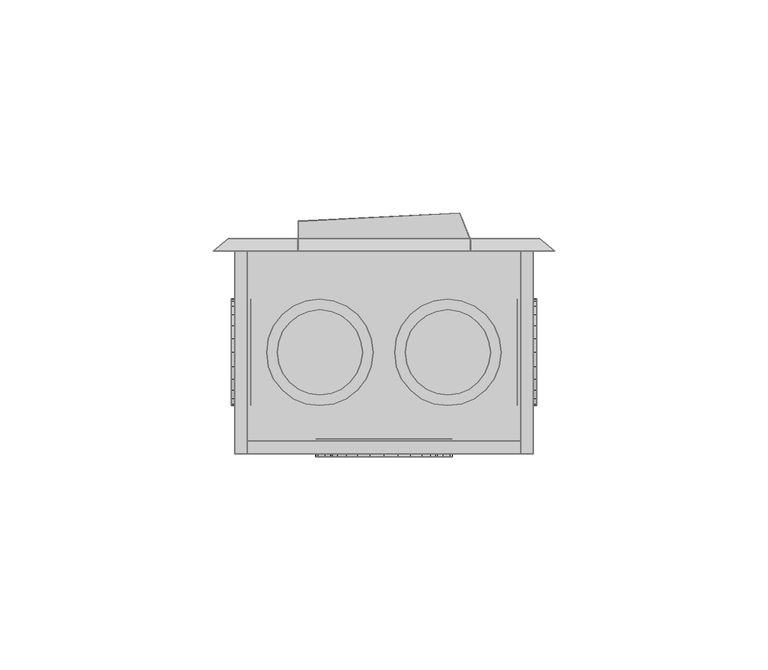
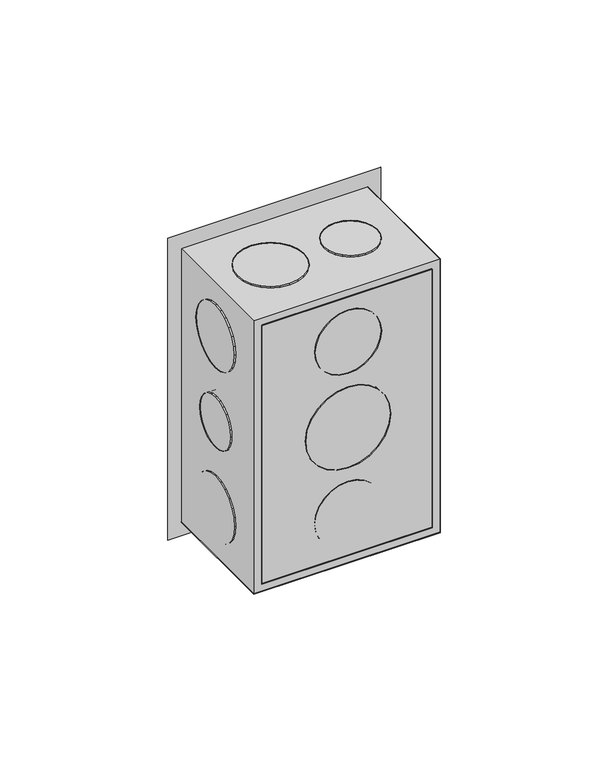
"""IFC4 building model written with IfcOpenShell, lengths in millimetres: proxy geometry,  210817 :  210817."""

from ifc_helpers import new_model, si_unit, origin, place, context, project, spatial, triangles, source, transform, mapped, element, save


def generic_models_2852369b(model_context):
    return source(origin(), model_context, "Body", "Tessellation", [
        triangles([(9409.6698303, 31445.4992065, 1254.3000378), (9412.6702286, 31445.4992065, 1148.7000154), (9409.6698303, 31445.4992065, 1145.6999805), (9412.6702286, 31445.4992065, 1251.2999302), (9479.6702087, 31445.4992065, 1254.3000378), (9476.6698105, 31445.4992065, 1251.2999302), (9479.6702087, 31445.4992065, 1145.6999805), (9476.6698105, 31445.4992065, 1148.7000154), (9412.6702286, 31397.9997803, 1251.2999302), (9412.6702286, 31397.9997803, 1148.7000154), (9479.6702087, 31397.9997803, 1254.3000378), (9479.6702087, 31397.9997803, 1145.6999805), (9476.6698105, 31397.9997803, 1251.2999302), (9409.6698303, 31397.9997803, 1145.6999805), (9476.6698105, 31397.9997803, 1148.7000154), (9409.6698303, 31397.9997803, 1254.3000378), (9412.6702286, 31400.9995972, 1251.2999302), (9476.6698105, 31400.9995972, 1148.7000154), (9412.6702286, 31400.9995972, 1148.7000154), (9476.6698105, 31400.9995972, 1251.2999302), (9430.7702866, 31401.4995667, 1191.9999887), (9436.6699265, 31401.4995667, 1186.0999855), (9433.3701279, 31401.4995667, 1188.6999722), (9429.1698029, 31401.4995667, 1195.8999687), (9440.4702759, 31401.4995667, 1184.5000105), (9428.6698334, 31401.4995667, 1200.0000092), (9444.6700195, 31401.4995667, 1183.9999683), (9429.1698029, 31401.4995667, 1204.0999769), (9448.7697693, 31401.4995667, 1184.5000105), (9430.7702866, 31401.4995667, 1208.0000296), (9452.6701126, 31401.4995667, 1186.0999855), (9433.3701279, 31401.4995667, 1211.2999735), (9455.9699112, 31401.4995667, 1188.6999722), (9436.6699265, 31401.4995667, 1213.9000328), (9458.4697586, 31401.4995667, 1191.9999887), (9440.4702759, 31401.4995667, 1215.5000078), (9460.0702423, 31401.4995667, 1195.8999687), (9444.6700195, 31401.4995667, 1215.9999773), (9460.6702057, 31401.4995667, 1200.0000092), (9448.7697693, 31401.4995667, 1215.5000078), (9460.0702423, 31401.4995667, 1204.0999769), (9452.6701126, 31401.4995667, 1213.9000328), (9458.4697586, 31401.4995667, 1208.0000296), (9455.9699112, 31401.4995667, 1211.2999735), (9448.7697693, 31397.299823, 1184.5000105), (9444.6700195, 31397.299823, 1183.9999683), (9440.4702759, 31397.299823, 1184.5000105), (9436.6699265, 31397.299823, 1186.0999855), (9433.3701279, 31397.299823, 1188.6999722), (9430.7702866, 31397.299823, 1191.9999887), (9429.1698029, 31397.299823, 1195.8999687), (9428.6698334, 31397.299823, 1200.0000092), (9429.1698029, 31397.299823, 1204.0999769), (9430.7702866, 31397.299823, 1208.0000296), (9433.3701279, 31397.299823, 1211.2999735), (9436.6699265, 31397.299823, 1213.9000328), (9440.4702759, 31397.299823, 1215.5000078), (9444.6700195, 31397.299823, 1215.9999773), (9448.7697693, 31397.299823, 1215.5000078), (9452.6701126, 31397.299823, 1213.9000328), (9455.9699112, 31397.299823, 1211.2999735), (9458.4697586, 31397.299823, 1208.0000296), (9460.0702423, 31397.299823, 1204.0999769), (9460.6702057, 31397.299823, 1200.0000092), (9460.0702423, 31397.299823, 1195.8999687), (9458.4697586, 31397.299823, 1191.9999887), (9455.9699112, 31397.299823, 1188.6999722), (9452.6701126, 31397.299823, 1186.0999855), (9433.7701035, 31401.4995667, 1227.8000565), (9438.3698227, 31401.4995667, 1223.2000465), (9435.7699814, 31401.4995667, 1225.2000698), (9432.5701767, 31401.4995667, 1230.8000187), (9441.3702209, 31401.4995667, 1221.8999805), (9432.1702011, 31401.4995667, 1233.9999687), (9444.6700195, 31401.4995667, 1221.500005), (9432.5701767, 31401.4995667, 1237.2000641), (9447.8698242, 31401.4995667, 1221.8999805), (9433.7701035, 31401.4995667, 1240.3000202), (9450.8702225, 31401.4995667, 1223.2000465), (9435.7699814, 31401.4995667, 1242.800013), (9453.4700638, 31401.4995667, 1225.2000698), (9455.4699417, 31401.4995667, 1227.8000565), (9438.3698227, 31401.4995667, 1244.8000362), (9441.3702209, 31401.4995667, 1246.0999569), (9456.6698685, 31401.4995667, 1230.8000187), (9444.6700195, 31401.4995667, 1246.4999325), (9457.169838, 31401.4995667, 1233.9999687), (9447.8698242, 31401.4995667, 1246.0999569), (9456.6698685, 31401.4995667, 1237.2000641), (9455.4699417, 31401.4995667, 1240.3000202), (9450.8702225, 31401.4995667, 1244.8000362), (9453.4700638, 31401.4995667, 1242.800013), (9456.6698685, 31397.299823, 1230.8000187), (9455.4699417, 31397.299823, 1227.8000565), (9453.4700638, 31397.299823, 1225.2000698), (9450.8702225, 31397.299823, 1223.2000465), (9447.8698242, 31397.299823, 1221.8999805), (9444.6700195, 31397.299823, 1221.500005), (9441.3702209, 31397.299823, 1221.8999805), (9438.3698227, 31397.299823, 1223.2000465), (9435.7699814, 31397.299823, 1225.2000698), (9433.7701035, 31397.299823, 1227.8000565), (9432.5701767, 31397.299823, 1230.8000187), (9432.1702011, 31397.299823, 1233.9999687), (9432.5701767, 31397.299823, 1237.2000641), (9433.7701035, 31397.299823, 1240.3000202), (9435.7699814, 31397.299823, 1242.800013), (9438.3698227, 31397.299823, 1244.8000362), (9441.3702209, 31397.299823, 1246.0999569), (9444.6700195, 31397.299823, 1246.4999325), (9447.8698242, 31397.299823, 1246.0999569), (9450.8702225, 31397.299823, 1244.8000362), (9453.4700638, 31397.299823, 1242.800013), (9455.4699417, 31397.299823, 1240.3000202), (9456.6698685, 31397.299823, 1237.2000641), (9457.169838, 31397.299823, 1233.9999687), (9438.3698227, 31397.299823, 1155.1999821), (9433.7701035, 31397.299823, 1159.6999981), (9435.7699814, 31397.299823, 1157.2000053), (9441.3702209, 31397.299823, 1153.8999887), (9432.5701767, 31397.299823, 1162.8000269), (9444.6700195, 31397.299823, 1153.5000132), (9432.1702011, 31397.299823, 1165.9999769), (9447.8698242, 31397.299823, 1153.8999887), (9432.5701767, 31397.299823, 1169.1999996), (9450.8702225, 31397.299823, 1155.1999821), (9433.7701035, 31397.299823, 1172.2000345), (9453.4700638, 31397.299823, 1157.2000053), (9435.7699814, 31397.299823, 1174.8000212), (9455.4699417, 31397.299823, 1159.6999981), (9438.3698227, 31397.299823, 1176.7999718), (9456.6698685, 31397.299823, 1162.8000269), (9441.3702209, 31397.299823, 1178.0999651), (9444.6700195, 31397.299823, 1178.5000134), (9457.169838, 31397.299823, 1165.9999769), (9456.6698685, 31397.299823, 1169.1999996), (9447.8698242, 31397.299823, 1178.0999651), (9455.4699417, 31397.299823, 1172.2000345), (9450.8702225, 31397.299823, 1176.7999718), (9453.4700638, 31397.299823, 1174.8000212), (9441.3702209, 31401.4995667, 1178.0999651), (9444.6700195, 31401.4995667, 1178.5000134), (9438.3698227, 31401.4995667, 1176.7999718), (9435.7699814, 31401.4995667, 1174.8000212), (9433.7701035, 31401.4995667, 1172.2000345), (9432.5701767, 31401.4995667, 1169.1999996), (9432.1702011, 31401.4995667, 1165.9999769), (9432.5701767, 31401.4995667, 1162.8000269), (9433.7701035, 31401.4995667, 1159.6999981), (9435.7699814, 31401.4995667, 1157.2000053), (9438.3698227, 31401.4995667, 1155.1999821), (9441.3702209, 31401.4995667, 1153.8999887), (9444.6700195, 31401.4995667, 1153.5000132), (9447.8698242, 31401.4995667, 1153.8999887), (9450.8702225, 31401.4995667, 1155.1999821), (9453.4700638, 31401.4995667, 1157.2000053), (9455.4699417, 31401.4995667, 1159.6999981), (9456.6698685, 31401.4995667, 1162.8000269), (9457.169838, 31401.4995667, 1165.9999769), (9456.6698685, 31401.4995667, 1169.1999996), (9455.4699417, 31401.4995667, 1172.2000345), (9453.4700638, 31401.4995667, 1174.8000212), (9450.8702225, 31401.4995667, 1176.7999718), (9447.8698242, 31401.4995667, 1178.0999651), (9413.4701797, 31416.8009583, 1191.3000315), (9413.4701797, 31413.0988586, 1195.0000237), (9413.4701797, 31414.7010864, 1192.9000065), (9413.4701797, 31412.0989197, 1197.4000225), (9413.4701797, 31419.2008118, 1190.3000198), (9413.4701797, 31411.798938, 1200.0000092), (9413.4701797, 31421.8006531, 1189.9999655), (9413.4701797, 31424.3005005, 1190.3000198), (9413.4701797, 31412.0989197, 1202.5999958), (9413.4701797, 31413.0988586, 1204.9999947), (9413.4701797, 31426.8003479, 1191.3000315), (9413.4701797, 31414.7010864, 1207.1000118), (9413.4701797, 31428.8002258, 1192.9000065), (9413.4701797, 31430.4001282, 1195.0000237), (9413.4701797, 31416.8009583, 1208.6999868), (9413.4701797, 31431.4000671, 1197.4000225), (9413.4701797, 31419.2008118, 1209.6999985), (9413.4701797, 31431.8000427, 1200.0000092), (9413.4701797, 31421.8006531, 1209.9999802), (9413.4701797, 31431.4000671, 1202.5999958), (9413.4701797, 31424.3005005, 1209.6999985), (9413.4701797, 31426.8003479, 1208.6999868), (9413.4701797, 31430.4001282, 1204.9999947), (9413.4701797, 31428.8002258, 1207.1000118), (9408.8698792, 31421.8006531, 1189.9999655), (9408.8698792, 31419.2008118, 1190.3000198), (9408.8698792, 31424.3005005, 1190.3000198), (9408.8698792, 31426.8003479, 1191.3000315), (9408.8698792, 31428.8002258, 1192.9000065), (9408.8698792, 31430.4001282, 1195.0000237), (9408.8698792, 31431.4000671, 1197.4000225), (9408.8698792, 31431.8000427, 1200.0000092), (9408.8698792, 31431.4000671, 1202.5999958), (9408.8698792, 31430.4001282, 1204.9999947), (9408.8698792, 31428.8002258, 1207.1000118), (9408.8698792, 31426.8003479, 1208.6999868), (9408.8698792, 31424.3005005, 1209.6999985), (9408.8698792, 31421.8006531, 1209.9999802), (9408.8698792, 31419.2008118, 1209.6999985), (9408.8698792, 31416.8009583, 1208.6999868), (9408.8698792, 31414.7010864, 1207.1000118), (9408.8698792, 31413.0988586, 1204.9999947), (9408.8698792, 31412.0989197, 1202.5999958), (9408.8698792, 31411.798938, 1200.0000092), (9408.8698792, 31412.0989197, 1197.4000225), (9408.8698792, 31413.0988586, 1195.0000237), (9408.8698792, 31414.7010864, 1192.9000065), (9408.8698792, 31416.8009583, 1191.3000315), (9413.4701797, 31415.5010376, 1223.2000465), (9413.4701797, 31410.8989929, 1227.8000565), (9413.4701797, 31412.8988708, 1225.2000698), (9413.4701797, 31418.5008545, 1221.8999805), (9413.4701797, 31409.6990662, 1230.8000187), (9413.4701797, 31409.2990906, 1233.9999687), (9413.4701797, 31421.8006531, 1221.500005), (9413.4701797, 31425.0004578, 1221.8999805), (9413.4701797, 31409.6990662, 1237.2000641), (9413.4701797, 31410.8989929, 1240.3000202), (9413.4701797, 31428.0002747, 1223.2000465), (9413.4701797, 31430.600116, 1225.2000698), (9413.4701797, 31412.8988708, 1242.800013), (9413.4701797, 31432.5999939, 1227.8000565), (9413.4701797, 31415.5010376, 1244.8000362), (9413.4701797, 31433.7999207, 1230.8000187), (9413.4701797, 31418.5008545, 1246.0999569), (9413.4701797, 31434.2998901, 1233.9999687), (9413.4701797, 31421.8006531, 1246.4999325), (9413.4701797, 31433.7999207, 1237.2000641), (9413.4701797, 31425.0004578, 1246.0999569), (9413.4701797, 31432.5999939, 1240.3000202), (9413.4701797, 31428.0002747, 1244.8000362), (9413.4701797, 31430.600116, 1242.800013), (9408.8698792, 31421.8006531, 1221.500005), (9408.8698792, 31418.5008545, 1221.8999805), (9408.8698792, 31425.0004578, 1221.8999805), (9408.8698792, 31428.0002747, 1223.2000465), (9408.8698792, 31430.600116, 1225.2000698), (9408.8698792, 31432.5999939, 1227.8000565), (9408.8698792, 31433.7999207, 1230.8000187), (9408.8698792, 31434.2998901, 1233.9999687), (9408.8698792, 31433.7999207, 1237.2000641), (9408.8698792, 31432.5999939, 1240.3000202), (9408.8698792, 31430.600116, 1242.800013), (9408.8698792, 31428.0002747, 1244.8000362), (9408.8698792, 31425.0004578, 1246.0999569), (9408.8698792, 31421.8006531, 1246.4999325), (9408.8698792, 31418.5008545, 1246.0999569), (9408.8698792, 31415.5010376, 1244.8000362), (9408.8698792, 31412.8988708, 1242.800013), (9408.8698792, 31410.8989929, 1240.3000202), (9408.8698792, 31409.6990662, 1237.2000641), (9408.8698792, 31409.2990906, 1233.9999687), (9408.8698792, 31409.6990662, 1230.8000187), (9408.8698792, 31410.8989929, 1227.8000565), (9408.8698792, 31412.8988708, 1225.2000698), (9408.8698792, 31415.5010376, 1223.2000465), (9408.8698792, 31410.8989929, 1159.6999981), (9408.8698792, 31415.5010376, 1155.1999821), (9408.8698792, 31412.8988708, 1157.2000053), (9408.8698792, 31409.6990662, 1162.8000269), (9408.8698792, 31418.5008545, 1153.8999887), (9408.8698792, 31409.2990906, 1165.9999769), (9408.8698792, 31421.8006531, 1153.5000132), (9408.8698792, 31409.6990662, 1169.1999996), (9408.8698792, 31425.0004578, 1153.8999887), (9408.8698792, 31410.8989929, 1172.2000345), (9408.8698792, 31428.0002747, 1155.1999821), (9408.8698792, 31412.8988708, 1174.8000212), (9408.8698792, 31430.600116, 1157.2000053), (9408.8698792, 31415.5010376, 1176.7999718), (9408.8698792, 31432.5999939, 1159.6999981), (9408.8698792, 31418.5008545, 1178.0999651), (9408.8698792, 31433.7999207, 1162.8000269), (9408.8698792, 31421.8006531, 1178.5000134), (9408.8698792, 31434.2998901, 1165.9999769), (9408.8698792, 31425.0004578, 1178.0999651), (9408.8698792, 31433.7999207, 1169.1999996), (9408.8698792, 31428.0002747, 1176.7999718), (9408.8698792, 31432.5999939, 1172.2000345), (9408.8698792, 31430.600116, 1174.8000212), (9413.4701797, 31418.5008545, 1178.0999651), (9413.4701797, 31421.8006531, 1178.5000134), (9413.4701797, 31425.0004578, 1178.0999651), (9413.4701797, 31428.0002747, 1176.7999718), (9413.4701797, 31430.600116, 1174.8000212), (9413.4701797, 31432.5999939, 1172.2000345), (9413.4701797, 31433.7999207, 1169.1999996), (9413.4701797, 31434.2998901, 1165.9999769), (9413.4701797, 31433.7999207, 1162.8000269), (9413.4701797, 31432.5999939, 1159.6999981), (9413.4701797, 31430.600116, 1157.2000053), (9413.4701797, 31428.0002747, 1155.1999821), (9413.4701797, 31425.0004578, 1153.8999887), (9413.4701797, 31421.8006531, 1153.5000132), (9413.4701797, 31418.5008545, 1153.8999887), (9413.4701797, 31415.5010376, 1155.1999821), (9413.4701797, 31412.8988708, 1157.2000053), (9413.4701797, 31410.8989929, 1159.6999981), (9413.4701797, 31409.6990662, 1162.8000269), (9413.4701797, 31409.2990906, 1165.9999769), (9413.4701797, 31409.6990662, 1169.1999996), (9413.4701797, 31410.8989929, 1172.2000345), (9413.4701797, 31412.8988708, 1174.8000212), (9413.4701797, 31415.5010376, 1176.7999718), (9475.8698593, 31413.0988586, 1195.0000237), (9475.8698593, 31416.8009583, 1191.3000315), (9475.8698593, 31414.7010864, 1192.9000065), (9475.8698593, 31412.0989197, 1197.4000225), (9475.8698593, 31419.2008118, 1190.3000198), (9475.8698593, 31411.798938, 1200.0000092), (9475.8698593, 31421.8006531, 1189.9999655), (9475.8698593, 31412.0989197, 1202.5999958), (9475.8698593, 31424.3005005, 1190.3000198), (9475.8698593, 31413.0988586, 1204.9999947), (9475.8698593, 31426.8003479, 1191.3000315), (9475.8698593, 31414.7010864, 1207.1000118), (9475.8698593, 31428.8002258, 1192.9000065), (9475.8698593, 31416.8009583, 1208.6999868), (9475.8698593, 31430.4001282, 1195.0000237), (9475.8698593, 31419.2008118, 1209.6999985), (9475.8698593, 31431.4000671, 1197.4000225), (9475.8698593, 31431.8000427, 1200.0000092), (9475.8698593, 31421.8006531, 1209.9999802), (9475.8698593, 31424.3005005, 1209.6999985), (9475.8698593, 31431.4000671, 1202.5999958), (9475.8698593, 31426.8003479, 1208.6999868), (9475.8698593, 31430.4001282, 1204.9999947), (9475.8698593, 31428.8002258, 1207.1000118), (9480.4701599, 31419.2008118, 1209.6999985), (9480.4701599, 31421.8006531, 1209.9999802), (9480.4701599, 31424.3005005, 1209.6999985), (9480.4701599, 31426.8003479, 1208.6999868), (9480.4701599, 31428.8002258, 1207.1000118), (9480.4701599, 31430.4001282, 1204.9999947), (9480.4701599, 31431.4000671, 1202.5999958), (9480.4701599, 31431.8000427, 1200.0000092), (9480.4701599, 31431.4000671, 1197.4000225), (9480.4701599, 31430.4001282, 1195.0000237), (9480.4701599, 31428.8002258, 1192.9000065), (9480.4701599, 31426.8003479, 1191.3000315), (9480.4701599, 31424.3005005, 1190.3000198), (9480.4701599, 31421.8006531, 1189.9999655), (9480.4701599, 31419.2008118, 1190.3000198), (9480.4701599, 31416.8009583, 1191.3000315), (9480.4701599, 31414.7010864, 1192.9000065), (9480.4701599, 31413.0988586, 1195.0000237), (9480.4701599, 31412.0989197, 1197.4000225), (9480.4701599, 31411.798938, 1200.0000092), (9480.4701599, 31412.0989197, 1202.5999958), (9480.4701599, 31413.0988586, 1204.9999947), (9480.4701599, 31414.7010864, 1207.1000118), (9480.4701599, 31416.8009583, 1208.6999868), (9475.8698593, 31410.8989929, 1159.6999981), (9475.8698593, 31415.5010376, 1155.1999821), (9475.8698593, 31412.8988708, 1157.2000053), (9475.8698593, 31409.6990662, 1162.8000269), (9475.8698593, 31418.5008545, 1153.8999887), (9475.8698593, 31409.2990906, 1165.9999769), (9475.8698593, 31421.8006531, 1153.5000132), (9475.8698593, 31409.6990662, 1169.1999996), (9475.8698593, 31425.0004578, 1153.8999887), (9475.8698593, 31410.8989929, 1172.2000345), (9475.8698593, 31428.0002747, 1155.1999821), (9475.8698593, 31412.8988708, 1174.8000212), (9475.8698593, 31430.600116, 1157.2000053), (9475.8698593, 31415.5010376, 1176.7999718), (9475.8698593, 31432.5999939, 1159.6999981), (9475.8698593, 31418.5008545, 1178.0999651), (9475.8698593, 31433.7999207, 1162.8000269), (9475.8698593, 31421.8006531, 1178.5000134), (9475.8698593, 31434.2998901, 1165.9999769), (9475.8698593, 31425.0004578, 1178.0999651), (9475.8698593, 31433.7999207, 1169.1999996), (9475.8698593, 31428.0002747, 1176.7999718), (9475.8698593, 31432.5999939, 1172.2000345), (9475.8698593, 31430.600116, 1174.8000212), (9480.4701599, 31418.5008545, 1178.0999651), (9480.4701599, 31421.8006531, 1178.5000134), (9480.4701599, 31425.0004578, 1178.0999651), (9480.4701599, 31428.0002747, 1176.7999718), (9480.4701599, 31430.600116, 1174.8000212), (9480.4701599, 31432.5999939, 1172.2000345), (9480.4701599, 31433.7999207, 1169.1999996), (9480.4701599, 31434.2998901, 1165.9999769), (9480.4701599, 31433.7999207, 1162.8000269), (9480.4701599, 31432.5999939, 1159.6999981), (9480.4701599, 31430.600116, 1157.2000053), (9480.4701599, 31428.0002747, 1155.1999821), (9480.4701599, 31425.0004578, 1153.8999887), (9480.4701599, 31421.8006531, 1153.5000132), (9480.4701599, 31418.5008545, 1153.8999887), (9480.4701599, 31415.5010376, 1155.1999821), (9480.4701599, 31412.8988708, 1157.2000053), (9480.4701599, 31410.8989929, 1159.6999981), (9480.4701599, 31409.6990662, 1162.8000269), (9480.4701599, 31409.2990906, 1165.9999769), (9480.4701599, 31409.6990662, 1169.1999996), (9480.4701599, 31410.8989929, 1172.2000345), (9480.4701599, 31412.8988708, 1174.8000212), (9480.4701599, 31415.5010376, 1176.7999718), (9480.4701599, 31415.5010376, 1223.2000465), (9480.4701599, 31410.8989929, 1227.8000565), (9480.4701599, 31412.8988708, 1225.2000698), (9480.4701599, 31418.5008545, 1221.8999805), (9480.4701599, 31409.6990662, 1230.8000187), (9480.4701599, 31409.2990906, 1233.9999687), (9480.4701599, 31421.8006531, 1221.500005), (9480.4701599, 31425.0004578, 1221.8999805), (9480.4701599, 31409.6990662, 1237.2000641), (9480.4701599, 31410.8989929, 1240.3000202), (9480.4701599, 31428.0002747, 1223.2000465), (9480.4701599, 31430.600116, 1225.2000698), (9480.4701599, 31412.8988708, 1242.800013), (9480.4701599, 31432.5999939, 1227.8000565), (9480.4701599, 31415.5010376, 1244.8000362), (9480.4701599, 31433.7999207, 1230.8000187), (9480.4701599, 31418.5008545, 1246.0999569), (9480.4701599, 31434.2998901, 1233.9999687), (9480.4701599, 31421.8006531, 1246.4999325), (9480.4701599, 31433.7999207, 1237.2000641), (9480.4701599, 31425.0004578, 1246.0999569), (9480.4701599, 31432.5999939, 1240.3000202), (9480.4701599, 31428.0002747, 1244.8000362), (9480.4701599, 31430.600116, 1242.800013), (9475.8698593, 31421.8006531, 1221.500005), (9475.8698593, 31418.5008545, 1221.8999805), (9475.8698593, 31425.0004578, 1221.8999805), (9475.8698593, 31428.0002747, 1223.2000465), (9475.8698593, 31430.600116, 1225.2000698), (9475.8698593, 31432.5999939, 1227.8000565), (9475.8698593, 31433.7999207, 1230.8000187), (9475.8698593, 31434.2998901, 1233.9999687), (9475.8698593, 31433.7999207, 1237.2000641), (9475.8698593, 31432.5999939, 1240.3000202), (9475.8698593, 31430.600116, 1242.800013), (9475.8698593, 31428.0002747, 1244.8000362), (9475.8698593, 31425.0004578, 1246.0999569), (9475.8698593, 31421.8006531, 1246.4999325), (9475.8698593, 31418.5008545, 1246.0999569), (9475.8698593, 31415.5010376, 1244.8000362), (9475.8698593, 31412.8988708, 1242.800013), (9475.8698593, 31410.8989929, 1240.3000202), (9475.8698593, 31409.6990662, 1237.2000641), (9475.8698593, 31409.2990906, 1233.9999687), (9475.8698593, 31409.6990662, 1230.8000187), (9475.8698593, 31410.8989929, 1227.8000565), (9475.8698593, 31412.8988708, 1225.2000698), (9475.8698593, 31415.5010376, 1223.2000465), (9418.7698563, 31415.5010376, 1250.9999485), (9423.3701569, 31410.8989929, 1250.9999485), (9420.7697342, 31412.8988708, 1250.9999485), (9417.5699295, 31418.5008545, 1250.9999485), (9426.3699738, 31409.6990662, 1250.9999485), (9429.6697723, 31409.2990906, 1250.9999485), (9417.1699539, 31421.8006531, 1250.9999485), (9417.5699295, 31425.0004578, 1250.9999485), (9432.8701584, 31409.6990662, 1250.9999485), (9435.8699753, 31410.8989929, 1250.9999485), (9418.7698563, 31428.0002747, 1250.9999485), (9420.7697342, 31430.600116, 1250.9999485), (9438.4698166, 31412.8988708, 1250.9999485), (9440.4702759, 31415.5010376, 1250.9999485), (9423.3701569, 31432.5999939, 1250.9999485), (9426.3699738, 31433.7999207, 1250.9999485), (9441.6702026, 31418.5008545, 1250.9999485), (9429.6697723, 31434.2998901, 1250.9999485), (9442.1701721, 31421.8006531, 1250.9999485), (9432.8701584, 31433.7999207, 1250.9999485), (9441.6702026, 31425.0004578, 1250.9999485), (9440.4702759, 31428.0002747, 1250.9999485), (9435.8699753, 31432.5999939, 1250.9999485), (9438.4698166, 31430.600116, 1250.9999485), (9429.6697723, 31409.2990906, 1255.1999828), (9432.8701584, 31409.6990662, 1255.1999828), (9426.3699738, 31409.6990662, 1255.1999828), (9423.3701569, 31410.8989929, 1255.1999828), (9420.7697342, 31412.8988708, 1255.1999828), (9418.7698563, 31415.5010376, 1255.1999828), (9417.5699295, 31418.5008545, 1255.1999828), (9417.1699539, 31421.8006531, 1255.1999828), (9417.5699295, 31425.0004578, 1255.1999828), (9418.7698563, 31428.0002747, 1255.1999828), (9420.7697342, 31430.600116, 1255.1999828), (9423.3701569, 31432.5999939, 1255.1999828), (9426.3699738, 31433.7999207, 1255.1999828), (9429.6697723, 31434.2998901, 1255.1999828), (9432.8701584, 31433.7999207, 1255.1999828), (9435.8699753, 31432.5999939, 1255.1999828), (9438.4698166, 31430.600116, 1255.1999828), (9440.4702759, 31428.0002747, 1255.1999828), (9441.6702026, 31425.0004578, 1255.1999828), (9442.1701721, 31421.8006531, 1255.1999828), (9441.6702026, 31418.5008545, 1255.1999828), (9440.4702759, 31415.5010376, 1255.1999828), (9438.4698166, 31412.8988708, 1255.1999828), (9435.8699753, 31410.8989929, 1255.1999828), (9450.9702164, 31416.8009583, 1250.9999485), (9454.6699905, 31413.0988586, 1250.9999485), (9452.5701187, 31414.7010864, 1250.9999485), (9457.0698441, 31412.0989197, 1250.9999485), (9449.9702774, 31419.2008118, 1250.9999485), (9459.6702667, 31411.798938, 1250.9999485), (9449.6697144, 31421.8006531, 1250.9999485), (9449.9702774, 31424.3005005, 1250.9999485), (9462.270108, 31412.0989197, 1250.9999485), (9464.6699615, 31413.0988586, 1250.9999485), (9450.9702164, 31426.8003479, 1250.9999485), (9466.6698395, 31414.7010864, 1250.9999485), (9452.5701187, 31428.8002258, 1250.9999485), (9454.6699905, 31430.4001282, 1250.9999485), (9468.2697418, 31416.8009583, 1250.9999485), (9469.2702621, 31419.2008118, 1250.9999485), (9457.0698441, 31431.4000671, 1250.9999485), (9459.6702667, 31431.8000427, 1250.9999485), (9469.6702377, 31421.8006531, 1250.9999485), (9462.270108, 31431.4000671, 1250.9999485), (9469.2702621, 31424.3005005, 1250.9999485), (9464.6699615, 31430.4001282, 1250.9999485), (9468.2697418, 31426.8003479, 1250.9999485), (9466.6698395, 31428.8002258, 1250.9999485), (9462.270108, 31412.0989197, 1255.1999828), (9464.6699615, 31413.0988586, 1255.1999828), (9459.6702667, 31411.798938, 1255.1999828), (9457.0698441, 31412.0989197, 1255.1999828), (9454.6699905, 31413.0988586, 1255.1999828), (9452.5701187, 31414.7010864, 1255.1999828), (9450.9702164, 31416.8009583, 1255.1999828), (9449.9702774, 31419.2008118, 1255.1999828), (9449.6697144, 31421.8006531, 1255.1999828), (9449.9702774, 31424.3005005, 1255.1999828), (9450.9702164, 31426.8003479, 1255.1999828), (9452.5701187, 31428.8002258, 1255.1999828), (9454.6699905, 31430.4001282, 1255.1999828), (9457.0698441, 31431.4000671, 1255.1999828), (9459.6702667, 31431.8000427, 1255.1999828), (9462.270108, 31431.4000671, 1255.1999828), (9464.6699615, 31430.4001282, 1255.1999828), (9466.6698395, 31428.8002258, 1255.1999828), (9468.2697418, 31426.8003479, 1255.1999828), (9469.2702621, 31424.3005005, 1255.1999828), (9469.6702377, 31421.8006531, 1255.1999828), (9469.2702621, 31419.2008118, 1255.1999828), (9468.2697418, 31416.8009583, 1255.1999828), (9466.6698395, 31414.7010864, 1255.1999828), (9420.969722, 31416.8009583, 1144.8000355), (9424.6700775, 31413.0988586, 1144.8000355), (9422.5702057, 31414.7010864, 1144.8000355), (9427.069931, 31412.0989197, 1144.8000355), (9419.969783, 31419.2008118, 1144.8000355), (9429.6697723, 31411.798938, 1144.8000355), (9419.6698013, 31421.8006531, 1144.8000355), (9419.969783, 31424.3005005, 1144.8000355), (9432.270195, 31412.0989197, 1144.8000355), (9434.6700485, 31413.0988586, 1144.8000355), (9420.969722, 31426.8003479, 1144.8000355), (9436.6699265, 31414.7010864, 1144.8000355), (9422.5702057, 31428.8002258, 1144.8000355), (9424.6700775, 31430.4001282, 1144.8000355), (9438.2698288, 31416.8009583, 1144.8000355), (9439.2697678, 31419.2008118, 1144.8000355), (9427.069931, 31431.4000671, 1144.8000355), (9429.6697723, 31431.8000427, 1144.8000355), (9439.6697433, 31421.8006531, 1144.8000355), (9432.270195, 31431.4000671, 1144.8000355), (9439.2697678, 31424.3005005, 1144.8000355), (9434.6700485, 31430.4001282, 1144.8000355), (9438.2698288, 31426.8003479, 1144.8000355), (9436.6699265, 31428.8002258, 1144.8000355), (9427.069931, 31412.0989197, 1149.099991), (9429.6697723, 31411.798938, 1149.099991), (9424.6700775, 31413.0988586, 1149.099991), (9422.5702057, 31414.7010864, 1149.099991), (9420.969722, 31416.8009583, 1149.099991), (9419.969783, 31419.2008118, 1149.099991), (9419.6698013, 31421.8006531, 1149.099991), (9419.969783, 31424.3005005, 1149.099991), (9420.969722, 31426.8003479, 1149.099991), (9422.5702057, 31428.8002258, 1149.099991), (9424.6700775, 31430.4001282, 1149.099991), (9427.069931, 31431.4000671, 1149.099991), (9429.6697723, 31431.8000427, 1149.099991), (9432.270195, 31431.4000671, 1149.099991), (9434.6700485, 31430.4001282, 1149.099991), (9436.6699265, 31428.8002258, 1149.099991), (9438.2698288, 31426.8003479, 1149.099991), (9439.2697678, 31424.3005005, 1149.099991), (9439.6697433, 31421.8006531, 1149.099991), (9439.2697678, 31419.2008118, 1149.099991), (9438.2698288, 31416.8009583, 1149.099991), (9436.6699265, 31414.7010864, 1149.099991), (9434.6700485, 31413.0988586, 1149.099991), (9432.270195, 31412.0989197, 1149.099991), (9448.7697693, 31415.5010376, 1144.8000355), (9453.3700699, 31410.8989929, 1144.8000355), (9450.7702286, 31412.8988708, 1144.8000355), (9447.5698425, 31418.5008545, 1144.8000355), (9456.3698868, 31409.6990662, 1144.8000355), (9459.6702667, 31409.2990906, 1144.8000355), (9447.1698669, 31421.8006531, 1144.8000355), (9447.5698425, 31425.0004578, 1144.8000355), (9462.8700714, 31409.6990662, 1144.8000355), (9465.8698883, 31410.8989929, 1144.8000355), (9448.7697693, 31428.0002747, 1144.8000355), (9450.7702286, 31430.600116, 1144.8000355), (9468.4697296, 31412.8988708, 1144.8000355), (9470.4701889, 31415.5010376, 1144.8000355), (9453.3700699, 31432.5999939, 1144.8000355), (9456.3698868, 31433.7999207, 1144.8000355), (9471.6701157, 31418.5008545, 1144.8000355), (9459.6702667, 31434.2998901, 1144.8000355), (9472.1700851, 31421.8006531, 1144.8000355), (9462.8700714, 31433.7999207, 1144.8000355), (9471.6701157, 31425.0004578, 1144.8000355), (9470.4701889, 31428.0002747, 1144.8000355), (9465.8698883, 31432.5999939, 1144.8000355), (9468.4697296, 31430.600116, 1144.8000355), (9462.8700714, 31409.6990662, 1149.099991), (9465.8698883, 31410.8989929, 1149.099991), (9459.6702667, 31409.2990906, 1149.099991), (9456.3698868, 31409.6990662, 1149.099991), (9453.3700699, 31410.8989929, 1149.099991), (9450.7702286, 31412.8988708, 1149.099991), (9448.7697693, 31415.5010376, 1149.099991), (9447.5698425, 31418.5008545, 1149.099991), (9447.1698669, 31421.8006531, 1149.099991), (9447.5698425, 31425.0004578, 1149.099991), (9448.7697693, 31428.0002747, 1149.099991), (9450.7702286, 31430.600116, 1149.099991), (9453.3700699, 31432.5999939, 1149.099991), (9456.3698868, 31433.7999207, 1149.099991), (9459.6702667, 31434.2998901, 1149.099991), (9462.8700714, 31433.7999207, 1149.099991), (9465.8698883, 31432.5999939, 1149.099991), (9468.4697296, 31430.600116, 1149.099991), (9470.4701889, 31428.0002747, 1149.099991), (9471.6701157, 31425.0004578, 1149.099991), (9472.1700851, 31421.8006531, 1149.099991), (9471.6701157, 31418.5008545, 1149.099991), (9470.4701889, 31415.5010376, 1149.099991), (9468.4697296, 31412.8988708, 1149.099991), (9484.6699036, 31445.4992065, 1139.9999651), (9424.4700897, 31445.4992065, 1188.2999966), (9404.6701355, 31445.4992065, 1139.9999651), (9464.8699493, 31445.4992065, 1188.2999966), (9484.6699036, 31445.4992065, 1259.9999805), (9464.8699493, 31445.4992065, 1211.7000217), (9404.6701355, 31445.4992065, 1259.9999805), (9424.4700897, 31445.4992065, 1211.7000217), (9464.8699493, 31448.4990234, 1188.2999966), (9464.8699493, 31448.4990234, 1211.7000217), (9424.4700897, 31448.4990234, 1188.2999966), (9424.4700897, 31448.4990234, 1211.7000217), (9408.1699219, 31448.4990234, 1143.4999695), (9408.1699219, 31448.4990234, 1256.5000488), (9481.1701172, 31448.4990234, 1143.4999695), (9481.1701172, 31448.4990234, 1256.5000488), (9424.5700836, 31452.5011047, 1188.1000088), (9464.9699432, 31445.4992065, 1188.1000088), (9424.5700836, 31445.4992065, 1188.1000088), (9462.3701019, 31454.4009888, 1188.1000088), (9464.9699432, 31447.999054, 1188.1000088), (9424.5700836, 31445.4992065, 1211.500034), (9464.9699432, 31445.4992065, 1211.500034), (9424.5700836, 31452.5011047, 1211.500034), (9462.3701019, 31454.4009888, 1211.500034), (9464.9699432, 31447.999054, 1211.500034)], [[1, 2, 3], [2, 1, 4], [5, 4, 1], [4, 5, 6], [3, 2, 7], [7, 2, 8], [7, 8, 6], [7, 6, 5], [2, 9, 10], [9, 2, 4], [7, 11, 12], [11, 7, 5], [4, 13, 9], [13, 4, 6], [3, 12, 14], [12, 3, 7], [13, 8, 15], [8, 13, 6], [16, 3, 14], [3, 16, 1], [15, 2, 10], [2, 15, 8], [11, 1, 16], [1, 11, 5], [12, 10, 14], [10, 12, 15], [11, 15, 12], [15, 11, 13], [14, 10, 16], [16, 10, 9], [16, 9, 13], [16, 13, 11], [17, 18, 19], [18, 17, 20], [18, 13, 15], [13, 18, 20], [19, 15, 10], [15, 19, 18], [9, 19, 10], [19, 9, 17], [13, 17, 9], [17, 13, 20], [15, 9, 10], [9, 15, 13], [21, 22, 23], [22, 21, 24], [25, 22, 24], [25, 24, 26], [27, 25, 26], [27, 26, 28], [29, 27, 28], [29, 28, 30], [31, 29, 30], [31, 30, 32], [31, 32, 33], [33, 32, 34], [33, 34, 35], [35, 34, 36], [35, 36, 37], [37, 36, 38], [37, 38, 39], [39, 38, 40], [39, 40, 41], [41, 40, 42], [41, 42, 43], [43, 42, 44], [27, 45, 46], [45, 27, 29], [25, 46, 47], [46, 25, 27], [22, 47, 48], [47, 22, 25], [23, 48, 49], [48, 23, 22], [50, 23, 49], [23, 50, 21], [51, 21, 50], [21, 51, 24], [52, 24, 51], [24, 52, 26], [53, 26, 52], [26, 53, 28], [54, 28, 53], [28, 54, 30], [55, 30, 54], [30, 55, 32], [56, 32, 55], [32, 56, 34], [57, 34, 56], [34, 57, 36], [58, 36, 57], [36, 58, 38], [59, 38, 58], [38, 59, 40], [60, 40, 59], [40, 60, 42], [61, 42, 60], [42, 61, 44], [43, 61, 62], [61, 43, 44], [41, 62, 63], [62, 41, 43], [39, 63, 64], [63, 39, 41], [37, 64, 65], [64, 37, 39], [35, 65, 66], [65, 35, 37], [33, 66, 67], [66, 33, 35], [31, 67, 68], [67, 31, 33], [29, 68, 45], [68, 29, 31], [48, 50, 49], [50, 48, 47], [51, 50, 47], [51, 47, 46], [52, 51, 46], [52, 46, 45], [53, 52, 45], [53, 45, 68], [54, 53, 68], [54, 68, 67], [54, 67, 55], [55, 67, 66], [55, 66, 56], [56, 66, 65], [56, 65, 57], [57, 65, 64], [57, 64, 58], [58, 64, 63], [58, 63, 59], [59, 63, 62], [59, 62, 60], [60, 62, 61], [69, 70, 71], [70, 69, 72], [73, 70, 72], [73, 72, 74], [75, 73, 74], [75, 74, 76], [77, 75, 76], [77, 76, 78], [79, 77, 78], [79, 78, 80], [81, 79, 80], [81, 80, 82], [82, 80, 83], [82, 83, 84], [82, 84, 85], [85, 84, 86], [85, 86, 87], [87, 86, 88], [87, 88, 89], [89, 88, 90], [90, 88, 91], [90, 91, 92], [82, 93, 94], [93, 82, 85], [81, 94, 95], [94, 81, 82], [79, 95, 96], [95, 79, 81], [77, 96, 97], [96, 77, 79], [75, 97, 98], [97, 75, 77], [73, 98, 99], [98, 73, 75], [70, 99, 100], [99, 70, 73], [71, 100, 101], [100, 71, 70], [102, 71, 101], [71, 102, 69], [103, 69, 102], [69, 103, 72], [104, 72, 103], [72, 104, 74], [105, 74, 104], [74, 105, 76], [106, 76, 105], [76, 106, 78], [107, 78, 106], [78, 107, 80], [108, 80, 107], [80, 108, 83], [109, 83, 108], [83, 109, 84], [110, 84, 109], [84, 110, 86], [111, 86, 110], [86, 111, 88], [112, 88, 111], [88, 112, 91], [113, 91, 112], [91, 113, 92], [90, 113, 114], [113, 90, 92], [89, 114, 115], [114, 89, 90], [87, 115, 116], [115, 87, 89], [85, 116, 93], [116, 85, 87], [100, 102, 101], [102, 100, 99], [103, 102, 99], [103, 99, 98], [104, 103, 98], [104, 98, 97], [105, 104, 97], [106, 105, 97], [106, 97, 96], [106, 96, 95], [106, 95, 107], [107, 95, 94], [107, 94, 108], [108, 94, 93], [108, 93, 109], [109, 93, 116], [109, 116, 110], [110, 116, 115], [110, 115, 111], [111, 115, 114], [111, 114, 112], [112, 114, 113], [117, 118, 119], [118, 117, 120], [121, 118, 120], [121, 120, 122], [123, 121, 122], [123, 122, 124], [125, 123, 124], [125, 124, 126], [127, 125, 126], [127, 126, 128], [127, 128, 129], [129, 128, 130], [129, 130, 131], [131, 130, 132], [131, 132, 133], [133, 132, 134], [134, 132, 135], [134, 135, 136], [134, 136, 137], [137, 136, 138], [137, 138, 139], [139, 138, 140], [134, 141, 133], [141, 134, 142], [133, 143, 131], [143, 133, 141], [131, 144, 129], [144, 131, 143], [129, 145, 127], [145, 129, 144], [127, 146, 125], [146, 127, 145], [125, 147, 123], [147, 125, 146], [123, 148, 121], [148, 123, 147], [121, 149, 118], [149, 121, 148], [118, 150, 119], [150, 118, 149], [150, 117, 119], [117, 150, 151], [151, 120, 117], [120, 151, 152], [152, 122, 120], [122, 152, 153], [153, 124, 122], [124, 153, 154], [154, 126, 124], [126, 154, 155], [155, 128, 126], [128, 155, 156], [156, 130, 128], [130, 156, 157], [157, 132, 130], [132, 157, 158], [158, 135, 132], [135, 158, 159], [159, 136, 135], [136, 159, 160], [160, 138, 136], [138, 160, 161], [161, 140, 138], [140, 161, 162], [140, 163, 139], [163, 140, 162], [139, 164, 137], [164, 139, 163], [137, 142, 134], [142, 137, 164], [149, 151, 150], [151, 149, 148], [152, 151, 148], [153, 152, 148], [153, 148, 147], [153, 147, 146], [154, 153, 146], [154, 146, 145], [155, 154, 145], [155, 145, 144], [156, 155, 144], [156, 144, 157], [157, 144, 143], [157, 143, 141], [157, 141, 158], [158, 141, 142], [158, 142, 159], [159, 142, 164], [159, 164, 160], [160, 164, 163], [160, 163, 161], [161, 163, 162], [165, 166, 167], [168, 166, 165], [168, 165, 169], [170, 168, 169], [170, 169, 171], [170, 171, 172], [173, 170, 172], [174, 173, 172], [174, 172, 175], [176, 174, 175], [176, 175, 177], [176, 177, 178], [176, 178, 179], [179, 178, 180], [179, 180, 181], [181, 180, 182], [181, 182, 183], [183, 182, 184], [183, 184, 185], [185, 184, 186], [186, 184, 187], [186, 187, 188], [189, 169, 190], [169, 189, 171], [191, 171, 189], [171, 191, 172], [192, 172, 191], [172, 192, 175], [193, 175, 192], [175, 193, 177], [194, 177, 193], [177, 194, 178], [195, 178, 194], [178, 195, 180], [196, 180, 195], [180, 196, 182], [197, 182, 196], [182, 197, 184], [198, 184, 197], [184, 198, 187], [199, 187, 198], [187, 199, 188], [186, 199, 200], [199, 186, 188], [185, 200, 201], [200, 185, 186], [183, 201, 202], [201, 183, 185], [181, 202, 203], [202, 181, 183], [179, 203, 204], [203, 179, 181], [176, 204, 205], [204, 176, 179], [174, 205, 206], [205, 174, 176], [173, 206, 207], [206, 173, 174], [170, 207, 208], [207, 170, 173], [168, 208, 209], [208, 168, 170], [166, 209, 210], [209, 166, 168], [167, 210, 211], [210, 167, 166], [212, 167, 211], [167, 212, 165], [190, 165, 212], [165, 190, 169], [210, 212, 211], [212, 210, 209], [190, 212, 209], [190, 209, 208], [189, 190, 208], [189, 208, 207], [191, 189, 207], [191, 207, 206], [192, 191, 206], [192, 206, 205], [192, 205, 193], [193, 205, 204], [193, 204, 194], [194, 204, 203], [194, 203, 195], [195, 203, 196], [196, 203, 202], [196, 202, 201], [196, 201, 197], [197, 201, 200], [197, 200, 198], [198, 200, 199], [213, 214, 215], [214, 213, 216], [217, 214, 216], [218, 217, 216], [218, 216, 219], [218, 219, 220], [221, 218, 220], [222, 221, 220], [222, 220, 223], [222, 223, 224], [222, 224, 225], [225, 224, 226], [225, 226, 227], [227, 226, 228], [227, 228, 229], [229, 228, 230], [229, 230, 231], [231, 230, 232], [231, 232, 233], [233, 232, 234], [233, 234, 235], [235, 234, 236], [237, 216, 238], [216, 237, 219], [239, 219, 237], [219, 239, 220], [240, 220, 239], [220, 240, 223], [241, 223, 240], [223, 241, 224], [242, 224, 241], [224, 242, 226], [243, 226, 242], [226, 243, 228], [244, 228, 243], [228, 244, 230], [245, 230, 244], [230, 245, 232], [246, 232, 245], [232, 246, 234], [247, 234, 246], [234, 247, 236], [235, 247, 248], [247, 235, 236], [233, 248, 249], [248, 233, 235], [231, 249, 250], [249, 231, 233], [229, 250, 251], [250, 229, 231], [227, 251, 252], [251, 227, 229], [225, 252, 253], [252, 225, 227], [222, 253, 254], [253, 222, 225], [221, 254, 255], [254, 221, 222], [218, 255, 256], [255, 218, 221], [217, 256, 257], [256, 217, 218], [214, 257, 258], [257, 214, 217], [215, 258, 259], [258, 215, 214], [260, 215, 259], [215, 260, 213], [238, 213, 260], [213, 238, 216], [258, 260, 259], [260, 258, 257], [238, 260, 257], [238, 257, 256], [237, 238, 256], [237, 256, 255], [239, 237, 255], [239, 255, 254], [240, 239, 254], [240, 254, 253], [241, 240, 253], [241, 253, 252], [241, 252, 242], [242, 252, 251], [242, 251, 243], [243, 251, 244], [244, 251, 250], [244, 250, 249], [244, 249, 245], [245, 249, 246], [246, 249, 248], [246, 248, 247], [261, 262, 263], [262, 261, 264], [265, 262, 264], [265, 264, 266], [267, 265, 266], [267, 266, 268], [269, 267, 268], [269, 268, 270], [271, 269, 270], [271, 270, 272], [273, 271, 272], [273, 272, 274], [273, 274, 275], [275, 274, 276], [275, 276, 277], [277, 276, 278], [277, 278, 279], [279, 278, 280], [279, 280, 281], [281, 280, 282], [281, 282, 283], [283, 282, 284], [285, 278, 276], [278, 285, 286], [286, 280, 278], [280, 286, 287], [287, 282, 280], [282, 287, 288], [288, 284, 282], [284, 288, 289], [284, 290, 283], [290, 284, 289], [283, 291, 281], [291, 283, 290], [281, 292, 279], [292, 281, 291], [279, 293, 277], [293, 279, 292], [277, 294, 275], [294, 277, 293], [275, 295, 273], [295, 275, 294], [273, 296, 271], [296, 273, 295], [271, 297, 269], [297, 271, 296], [269, 298, 267], [298, 269, 297], [267, 299, 265], [299, 267, 298], [265, 300, 262], [300, 265, 299], [262, 301, 263], [301, 262, 300], [301, 261, 263], [261, 301, 302], [302, 264, 261], [264, 302, 303], [303, 266, 264], [266, 303, 304], [304, 268, 266], [268, 304, 305], [305, 270, 268], [270, 305, 306], [306, 272, 270], [272, 306, 307], [307, 274, 272], [274, 307, 308], [308, 276, 274], [276, 308, 285], [300, 302, 301], [302, 300, 299], [303, 302, 299], [303, 299, 298], [304, 303, 298], [304, 298, 297], [305, 304, 297], [305, 297, 296], [306, 305, 296], [306, 296, 295], [306, 295, 307], [307, 295, 294], [307, 294, 308], [308, 294, 293], [308, 293, 285], [285, 293, 286], [286, 293, 292], [286, 292, 291], [286, 291, 287], [287, 291, 288], [288, 291, 290], [288, 290, 289], [309, 310, 311], [310, 309, 312], [313, 310, 312], [313, 312, 314], [315, 313, 314], [315, 314, 316], [317, 315, 316], [317, 316, 318], [319, 317, 318], [319, 318, 320], [319, 320, 321], [321, 320, 322], [321, 322, 323], [323, 322, 324], [323, 324, 325], [325, 324, 326], [326, 324, 327], [326, 327, 328], [326, 328, 329], [329, 328, 330], [329, 330, 331], [331, 330, 332], [333, 327, 324], [327, 333, 334], [334, 328, 327], [328, 334, 335], [335, 330, 328], [330, 335, 336], [336, 332, 330], [332, 336, 337], [332, 338, 331], [338, 332, 337], [331, 339, 329], [339, 331, 338], [329, 340, 326], [340, 329, 339], [326, 341, 325], [341, 326, 340], [325, 342, 323], [342, 325, 341], [323, 343, 321], [343, 323, 342], [321, 344, 319], [344, 321, 343], [319, 345, 317], [345, 319, 344], [317, 346, 315], [346, 317, 345], [315, 347, 313], [347, 315, 346], [313, 348, 310], [348, 313, 347], [310, 349, 311], [349, 310, 348], [349, 309, 311], [309, 349, 350], [350, 312, 309], [312, 350, 351], [351, 314, 312], [314, 351, 352], [352, 316, 314], [316, 352, 353], [353, 318, 316], [318, 353, 354], [354, 320, 318], [320, 354, 355], [355, 322, 320], [322, 355, 356], [356, 324, 322], [324, 356, 333], [348, 350, 349], [351, 350, 348], [351, 348, 347], [352, 351, 347], [352, 347, 346], [352, 346, 345], [353, 352, 345], [354, 353, 345], [354, 345, 344], [355, 354, 344], [355, 344, 343], [355, 343, 342], [355, 342, 356], [356, 342, 341], [356, 341, 333], [333, 341, 340], [333, 340, 334], [334, 340, 339], [334, 339, 335], [335, 339, 336], [336, 339, 338], [336, 338, 337], [357, 358, 359], [358, 357, 360], [361, 358, 360], [361, 360, 362], [363, 361, 362], [363, 362, 364], [365, 363, 364], [365, 364, 366], [367, 365, 366], [367, 366, 368], [369, 367, 368], [369, 368, 370], [369, 370, 371], [371, 370, 372], [371, 372, 373], [373, 372, 374], [373, 374, 375], [375, 374, 376], [375, 376, 377], [377, 376, 378], [377, 378, 379], [379, 378, 380], [381, 374, 372], [374, 381, 382], [382, 376, 374], [376, 382, 383], [383, 378, 376], [378, 383, 384], [384, 380, 378], [380, 384, 385], [380, 386, 379], [386, 380, 385], [379, 387, 377], [387, 379, 386], [377, 388, 375], [388, 377, 387], [375, 389, 373], [389, 375, 388], [373, 390, 371], [390, 373, 389], [371, 391, 369], [391, 371, 390], [369, 392, 367], [392, 369, 391], [367, 393, 365], [393, 367, 392], [365, 394, 363], [394, 365, 393], [363, 395, 361], [395, 363, 394], [361, 396, 358], [396, 361, 395], [358, 397, 359], [397, 358, 396], [397, 357, 359], [357, 397, 398], [398, 360, 357], [360, 398, 399], [399, 362, 360], [362, 399, 400], [400, 364, 362], [364, 400, 401], [401, 366, 364], [366, 401, 402], [402, 368, 366], [368, 402, 403], [403, 370, 368], [370, 403, 404], [404, 372, 370], [372, 404, 381], [396, 398, 397], [398, 396, 395], [399, 398, 395], [399, 395, 394], [400, 399, 394], [400, 394, 393], [401, 400, 393], [401, 393, 392], [402, 401, 392], [402, 392, 391], [402, 391, 403], [403, 391, 390], [403, 390, 404], [404, 390, 389], [404, 389, 381], [381, 389, 382], [382, 389, 388], [382, 388, 387], [382, 387, 383], [383, 387, 384], [384, 387, 386], [384, 386, 385], [405, 406, 407], [406, 405, 408], [409, 406, 408], [410, 409, 408], [410, 408, 411], [410, 411, 412], [413, 410, 412], [414, 413, 412], [414, 412, 415], [414, 415, 416], [414, 416, 417], [417, 416, 418], [417, 418, 419], [419, 418, 420], [419, 420, 421], [421, 420, 422], [421, 422, 423], [423, 422, 424], [423, 424, 425], [425, 424, 426], [425, 426, 427], [427, 426, 428], [429, 408, 430], [408, 429, 411], [431, 411, 429], [411, 431, 412], [432, 412, 431], [412, 432, 415], [433, 415, 432], [415, 433, 416], [434, 416, 433], [416, 434, 418], [435, 418, 434], [418, 435, 420], [436, 420, 435], [420, 436, 422], [437, 422, 436], [422, 437, 424], [438, 424, 437], [424, 438, 426], [439, 426, 438], [426, 439, 428], [427, 439, 440], [439, 427, 428], [425, 440, 441], [440, 425, 427], [423, 441, 442], [441, 423, 425], [421, 442, 443], [442, 421, 423], [419, 443, 444], [443, 419, 421], [417, 444, 445], [444, 417, 419], [414, 445, 446], [445, 414, 417], [413, 446, 447], [446, 413, 414], [410, 447, 448], [447, 410, 413], [409, 448, 449], [448, 409, 410], [406, 449, 450], [449, 406, 409], [407, 450, 451], [450, 407, 406], [452, 407, 451], [407, 452, 405], [430, 405, 452], [405, 430, 408], [450, 452, 451], [452, 450, 449], [430, 452, 449], [430, 449, 448], [429, 430, 448], [429, 448, 447], [431, 429, 447], [431, 447, 446], [432, 431, 446], [432, 446, 445], [433, 432, 445], [433, 445, 444], [433, 444, 434], [434, 444, 443], [434, 443, 435], [435, 443, 436], [436, 443, 442], [436, 442, 441], [436, 441, 437], [437, 441, 438], [438, 441, 440], [438, 440, 439], [453, 454, 455], [454, 453, 456], [457, 454, 456], [458, 457, 456], [458, 456, 459], [458, 459, 460], [461, 458, 460], [462, 461, 460], [462, 460, 463], [462, 463, 464], [462, 464, 465], [465, 464, 466], [466, 464, 467], [466, 467, 468], [466, 468, 469], [469, 468, 470], [469, 470, 471], [471, 470, 472], [471, 472, 473], [473, 472, 474], [474, 472, 475], [474, 475, 476], [461, 477, 458], [477, 461, 478], [458, 479, 457], [479, 458, 477], [457, 480, 454], [480, 457, 479], [454, 481, 455], [481, 454, 480], [481, 453, 455], [453, 481, 482], [482, 456, 453], [456, 482, 483], [483, 459, 456], [459, 483, 484], [484, 460, 459], [460, 484, 485], [485, 463, 460], [463, 485, 486], [486, 464, 463], [464, 486, 487], [487, 467, 464], [467, 487, 488], [488, 468, 467], [468, 488, 489], [489, 470, 468], [470, 489, 490], [490, 472, 470], [472, 490, 491], [491, 475, 472], [475, 491, 492], [492, 476, 475], [476, 492, 493], [476, 494, 474], [494, 476, 493], [474, 495, 473], [495, 474, 494], [473, 496, 471], [496, 473, 495], [471, 497, 469], [497, 471, 496], [469, 498, 466], [498, 469, 497], [466, 499, 465], [499, 466, 498], [465, 500, 462], [500, 465, 499], [462, 478, 461], [478, 462, 500], [480, 482, 481], [483, 482, 480], [483, 480, 479], [483, 479, 477], [484, 483, 477], [485, 484, 477], [485, 477, 478], [485, 478, 500], [486, 485, 500], [487, 486, 500], [487, 500, 499], [487, 499, 498], [487, 498, 488], [488, 498, 489], [489, 498, 497], [489, 497, 490], [490, 497, 496], [490, 496, 491], [491, 496, 495], [491, 495, 494], [491, 494, 492], [492, 494, 493], [501, 502, 503], [504, 502, 501], [504, 501, 505], [506, 504, 505], [506, 505, 507], [506, 507, 508], [509, 506, 508], [510, 509, 508], [510, 508, 511], [512, 510, 511], [512, 511, 513], [512, 513, 514], [512, 514, 515], [515, 514, 516], [516, 514, 517], [516, 517, 518], [516, 518, 519], [519, 518, 520], [519, 520, 521], [521, 520, 522], [521, 522, 523], [523, 522, 524], [510, 525, 509], [525, 510, 526], [509, 527, 506], [527, 509, 525], [506, 528, 504], [528, 506, 527], [504, 529, 502], [529, 504, 528], [502, 530, 503], [530, 502, 529], [530, 501, 503], [501, 530, 531], [531, 505, 501], [505, 531, 532], [532, 507, 505], [507, 532, 533], [533, 508, 507], [508, 533, 534], [534, 511, 508], [511, 534, 535], [535, 513, 511], [513, 535, 536], [536, 514, 513], [514, 536, 537], [537, 517, 514], [517, 537, 538], [538, 518, 517], [518, 538, 539], [539, 520, 518], [520, 539, 540], [540, 522, 520], [522, 540, 541], [541, 524, 522], [524, 541, 542], [524, 543, 523], [543, 524, 542], [523, 544, 521], [544, 523, 543], [521, 545, 519], [545, 521, 544], [519, 546, 516], [546, 519, 545], [516, 547, 515], [547, 516, 546], [515, 548, 512], [548, 515, 547], [512, 526, 510], [526, 512, 548], [529, 531, 530], [531, 529, 528], [532, 531, 528], [532, 528, 527], [533, 532, 527], [534, 533, 527], [534, 527, 525], [534, 525, 526], [535, 534, 526], [535, 526, 548], [535, 548, 536], [536, 548, 537], [537, 548, 547], [537, 547, 546], [537, 546, 538], [538, 546, 539], [539, 546, 545], [539, 545, 540], [540, 545, 544], [540, 544, 541], [541, 544, 543], [541, 543, 542], [549, 550, 551], [552, 550, 549], [552, 549, 553], [554, 552, 553], [554, 553, 555], [554, 555, 556], [557, 554, 556], [558, 557, 556], [558, 556, 559], [560, 558, 559], [560, 559, 561], [560, 561, 562], [560, 562, 563], [563, 562, 564], [564, 562, 565], [564, 565, 566], [564, 566, 567], [567, 566, 568], [567, 568, 569], [569, 568, 570], [569, 570, 571], [571, 570, 572], [554, 573, 552], [573, 554, 574], [552, 575, 550], [575, 552, 573], [550, 576, 551], [576, 550, 575], [576, 549, 551], [549, 576, 577], [577, 553, 549], [553, 577, 578], [578, 555, 553], [555, 578, 579], [579, 556, 555], [556, 579, 580], [580, 559, 556], [559, 580, 581], [581, 561, 559], [561, 581, 582], [582, 562, 561], [562, 582, 583], [583, 565, 562], [565, 583, 584], [584, 566, 565], [566, 584, 585], [585, 568, 566], [568, 585, 586], [586, 570, 568], [570, 586, 587], [587, 572, 570], [572, 587, 588], [572, 589, 571], [589, 572, 588], [571, 590, 569], [590, 571, 589], [569, 591, 567], [591, 569, 590], [567, 592, 564], [592, 567, 591], [564, 593, 563], [593, 564, 592], [563, 594, 560], [594, 563, 593], [560, 595, 558], [595, 560, 594], [558, 596, 557], [596, 558, 595], [557, 574, 554], [574, 557, 596], [575, 577, 576], [577, 575, 573], [578, 577, 573], [578, 573, 574], [579, 578, 574], [580, 579, 574], [580, 574, 596], [580, 596, 595], [581, 580, 595], [581, 595, 594], [581, 594, 582], [582, 594, 583], [583, 594, 593], [583, 593, 592], [583, 592, 584], [584, 592, 585], [585, 592, 591], [585, 591, 586], [586, 591, 590], [586, 590, 587], [587, 590, 589], [587, 589, 588], [597, 598, 599], [598, 597, 600], [601, 598, 600], [602, 601, 600], [602, 600, 603], [602, 603, 604], [605, 602, 604], [606, 605, 604], [606, 604, 607], [606, 607, 608], [606, 608, 609], [609, 608, 610], [610, 608, 611], [610, 611, 612], [610, 612, 613], [613, 612, 614], [613, 614, 615], [615, 614, 616], [615, 616, 617], [617, 616, 618], [618, 616, 619], [618, 619, 620], [606, 621, 605], [621, 606, 622], [605, 623, 602], [623, 605, 621], [602, 624, 601], [624, 602, 623], [601, 625, 598], [625, 601, 624], [598, 626, 599], [626, 598, 625], [626, 597, 599], [597, 626, 627], [627, 600, 597], [600, 627, 628], [628, 603, 600], [603, 628, 629], [629, 604, 603], [604, 629, 630], [630, 607, 604], [607, 630, 631], [631, 608, 607], [608, 631, 632], [632, 611, 608], [611, 632, 633], [633, 612, 611], [612, 633, 634], [634, 614, 612], [614, 634, 635], [635, 616, 614], [616, 635, 636], [636, 619, 616], [619, 636, 637], [637, 620, 619], [620, 637, 638], [620, 639, 618], [639, 620, 638], [618, 640, 617], [640, 618, 639], [617, 641, 615], [641, 617, 640], [615, 642, 613], [642, 615, 641], [613, 643, 610], [643, 613, 642], [610, 644, 609], [644, 610, 643], [609, 622, 606], [622, 609, 644], [625, 627, 626], [628, 627, 625], [628, 625, 624], [628, 624, 623], [629, 628, 623], [630, 629, 623], [630, 623, 621], [630, 621, 622], [631, 630, 622], [632, 631, 622], [632, 622, 644], [632, 644, 643], [632, 643, 633], [633, 643, 634], [634, 643, 642], [634, 642, 635], [635, 642, 641], [635, 641, 636], [636, 641, 640], [636, 640, 639], [636, 639, 637], [637, 639, 638], [645, 646, 647], [646, 645, 648], [649, 648, 645], [648, 649, 650], [647, 646, 651], [651, 646, 652], [651, 652, 650], [651, 650, 649], [650, 653, 648], [653, 650, 654], [648, 655, 646], [655, 648, 653], [655, 652, 646], [652, 655, 656], [656, 650, 652], [650, 656, 654], [651, 657, 647], [657, 651, 658], [647, 657, 645], [645, 657, 659], [660, 645, 659], [645, 660, 649], [651, 660, 658], [649, 660, 651], [658, 655, 657], [655, 658, 656], [654, 656, 658], [654, 658, 660], [655, 659, 657], [659, 655, 653], [659, 653, 660], [660, 653, 654], [661, 662, 663], [662, 661, 664], [662, 664, 665], [662, 666, 663], [666, 662, 667], [666, 661, 663], [661, 666, 668], [668, 664, 661], [664, 668, 669], [664, 670, 665], [670, 664, 669], [665, 667, 662], [667, 665, 670], [667, 668, 666], [668, 667, 669], [669, 667, 670]], closed=False),
    ])


if __name__ == "__main__":
    model = new_model("IFC4")
    model_context = context("Model", 3, world=origin())
    ifc_project = project(units=[si_unit("LENGTHUNIT", "METRE", prefix="MILLI")], contexts=[model_context])
    site = spatial("IfcSite", under=ifc_project)
    building = spatial("IfcBuilding", under=site)
    placement = place(None, origin())
    generic_models_shape = generic_models_2852369b(model_context)
    element("IfcBuildingElementProxy", 1, Name=" 210817 :  210817", ObjectType=" 210817 :  210817", at=placement, inside=building, context=model_context, shape_type="MappedRepresentation", body=[
        mapped(generic_models_shape, transform((0.0, 0.0, 0.0), x_axis=(1.0, 0.0, 0.0), y_axis=(0.0, 1.0, 0.0), z_axis=(0.0, 0.0, 1.0))),
    ])
    save(model, "model.ifc")
